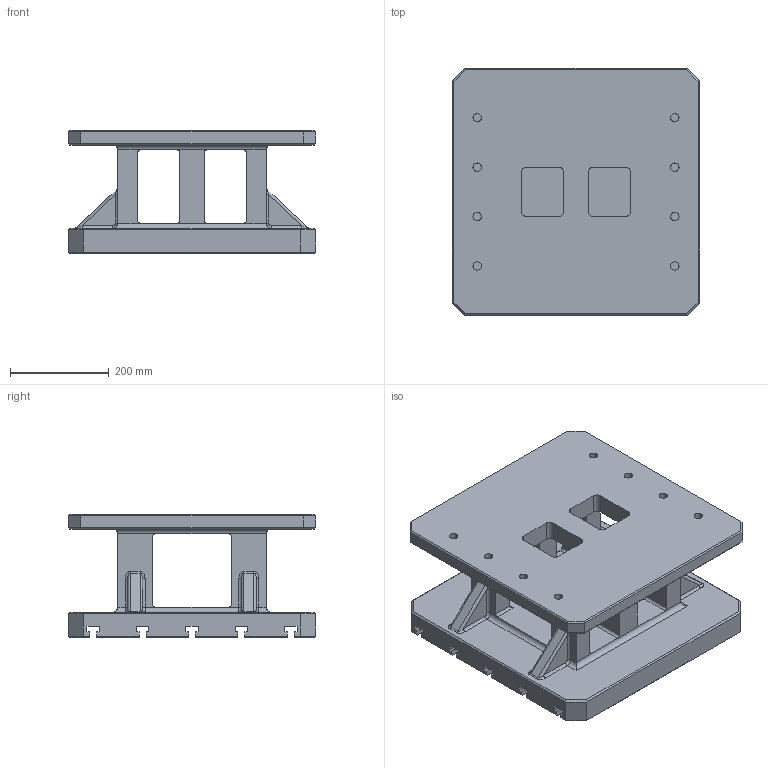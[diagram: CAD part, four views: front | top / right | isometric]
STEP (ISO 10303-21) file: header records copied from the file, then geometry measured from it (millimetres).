
FILE_DESCRIPTION((''),'2;1');
FILE_NAME('FG_WH_RISTL_TSLOTNP002','2026-05-24T11:25:55',('Admin'),(''),'CREO PARAMETRIC BY PTC INC, 2025010','CREO PARAMETRIC BY PTC INC, 2025010','');
FILE_SCHEMA(('CONFIG_CONTROL_DESIGN'));
Length unit declared in the file: millimetre
Products named in the file (1): FG_WH_RISTL_TSLOTNP002
Bounding box: 500 x 500 x 250 mm (x, y, z)
Volume: 23420192 mm3; surface area: 1504729 mm2
Topology: 1 solids, 1 shells, 292 faces, 742 edges, 452 vertices
Faces by surface type: plane 156, cylinder 112, bspline 24
Entity records: 9874 total; most frequent: CARTESIAN_POINT 2860, ORIENTED_EDGE 1484, DIRECTION 1390, EDGE_CURVE 742, VECTOR 518, LINE 518, VERTEX_POINT 452, AXIS2_PLACEMENT_3D 436
